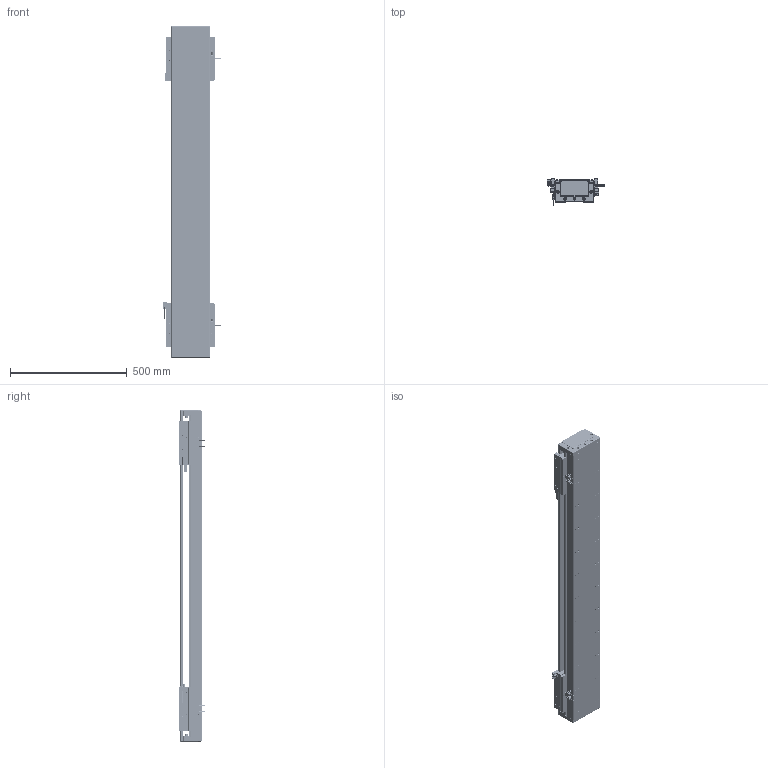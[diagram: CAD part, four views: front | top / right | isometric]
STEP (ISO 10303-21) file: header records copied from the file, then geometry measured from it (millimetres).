
FILE_DESCRIPTION (( 'STEP AP203' ), '1' );
FILE_NAME ('DA-C165-2-C2-T920-C010-0.2 直线电机.STEP', '2023-05-11T08:19:04', ( '微软用户' ), ( '微软中国' ), 'SwSTEP 2.0', 'SolidWorks 2019', '' );
FILE_SCHEMA (( 'CONFIG_CONTROL_DESIGN' ));
Length unit declared in the file: millimetre
Products named in the file (19): 复件 DA126-GYP-ZJ-00 中间光电感应片^DA-C165-C2-T-C010-0.2-N 直线电机; 复件 66338-1000-006-00 光电感应块^DA-C165-C2-T-C010-0.2-N 直线电机; 珨极趙賑雄怢啣wf-C2; 复件 DMA-010-0.2 读数头^DA-C165-C2-T-C010-0.2-N 直线电机; 复件 DA165-DG-H-N-00 端盖^DA-C165-C2-T-C010-0.2-N 直线电机; 复件 DA95-HXJ-00 缓冲橡胶^DA-C165-C2-T-C010-0.2-N 直线电机; 复件 DA165-T-002-00 盖板^DA-C165-C2-T-C010-0.2-N 直线电机_0840-002-00; 复件 DA165-GYP-00 光电感应片^DA-C165-C2-T-C010-0.2-N 直线电机; 复件 XD-U-02L 磁栅尺^DA-C165-C2-T-C010-0.2-N 直线电机_T; DA-C165-2-C2-T920-C010-0.2 眻盄萇儂; 葩璃 PM-Y45^DA-C165-C2-T-C010-0.2-N 眻盄萇儂; IU-CU165-L-00 菁釱_L1380; 葩璃 CKM01-W075-TRL^DA-C165-C2-T-C010-0.2-N 眻盄萇儂; 复件 DKW-HXJ-JY-00 缓冲橡胶^DA-C165-C2-T-C010-0.2-N 直线电机; 葩璃 PM-T45^DA-C165-C2-T-C010-0.2-N 眻盄萇儂; IU-CU165-L 菁釱絳寢; 复件 六角薄螺母 M3^DA-C165-C2-T-C010-0.2-N 直线电机_GB_FASTENER_NUT_STNAB M3-C; 复件 CKM02-W075-C1C2-TP-3.0 一体电机-C2^DA-C165-C2-T-C010-0.2-N 直线电机; 葩璃 DA95-GT-T-00^IU-CU165-L 菁釱絳寢_T
Assembly tree (38 placements, depth 3):
  DA-C165-2-C2-T920-C010-0.2 眻盄萇儂
    IU-CU165-L 菁釱絳寢
      IU-CU165-L-00 菁釱_L1380
      葩璃 DA95-GT-T-00^IU-CU165-L 菁釱絳寢_T  x4
    复件 DA165-DG-H-N-00 端盖^DA-C165-C2-T-C010-0.2-N 直线电机  x2
    复件 DA95-HXJ-00 缓冲橡胶^DA-C165-C2-T-C010-0.2-N 直线电机  x4
    复件 DA165-T-002-00 盖板^DA-C165-C2-T-C010-0.2-N 直线电机_0840-002-00
    复件 XD-U-02L 磁栅尺^DA-C165-C2-T-C010-0.2-N 直线电机_T
    葩璃 PM-T45^DA-C165-C2-T-C010-0.2-N 眻盄萇儂  x4
    葩璃 CKM01-W075-TRL^DA-C165-C2-T-C010-0.2-N 眻盄萇儂
    复件 CKM02-W075-C1C2-TP-3.0 一体电机-C2^DA-C165-C2-T-C010-0.2-N 直线电机  x2
    复件 DMA-010-0.2 读数头^DA-C165-C2-T-C010-0.2-N 直线电机  x2
    复件 DA165-GYP-00 光电感应片^DA-C165-C2-T-C010-0.2-N 直线电机  x2
    复件 66338-1000-006-00 光电感应块^DA-C165-C2-T-C010-0.2-N 直线电机
    葩璃 PM-Y45^DA-C165-C2-T-C010-0.2-N 眻盄萇儂
    复件 DA126-GYP-ZJ-00 中间光电感应片^DA-C165-C2-T-C010-0.2-N 直线电机
    复件 DKW-HXJ-JY-00 缓冲橡胶^DA-C165-C2-T-C010-0.2-N 直线电机  x2
    复件 六角薄螺母 M3^DA-C165-C2-T-C010-0.2-N 直线电机_GB_FASTENER_NUT_STNAB M3-C  x6
    珨极趙賑雄怢啣wf-C2  x2
Bounding box: 247.2 x 111.45 x 1420 mm (x, y, z)
Volume: 11322380.2 mm3; surface area: 3020002.2 mm2
Topology: 115 solids, 115 shells, 5032 faces, 13613 edges, 8502 vertices
Faces by surface type: cylinder 2478, plane 1778, cone 680, torus 88, sphere 8
Entity records: 106976 total; most frequent: CARTESIAN_POINT 25798, DIRECTION 16513, ORIENTED_EDGE 16472, EDGE_CURVE 8236, AXIS2_PLACEMENT_3D 6176, VERTEX_POINT 5339, VECTOR 4161, LINE 4161
